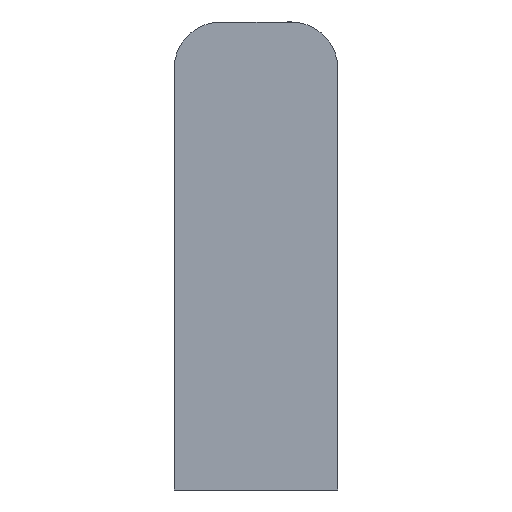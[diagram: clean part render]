
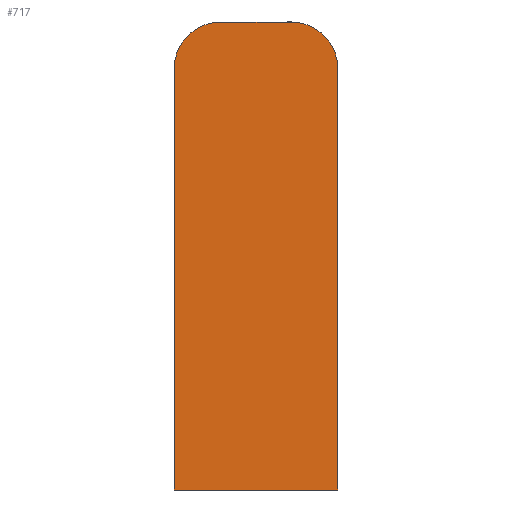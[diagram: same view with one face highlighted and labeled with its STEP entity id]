
A CAD part, front view. The second image highlights one B-rep face of the part: STEP entity #717.
In plain terms, the highlighted planar face has unit normal (0, -1, 0).
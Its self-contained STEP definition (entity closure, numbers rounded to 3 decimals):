
#40 = FACE_OUTER_BOUND ( 'NONE', #577, .T. ) ;
#59 = VECTOR ( 'NONE', #402, 1000. ) ;
#60 = LINE ( 'NONE', #401, #59 ) ;
#61 = VECTOR ( 'NONE', #399, 1000. ) ;
#62 = LINE ( 'NONE', #398, #61 ) ;
#86 = CIRCLE ( 'NONE', #672, 3. ) ;
#116 = CIRCLE ( 'NONE', #695, 3. ) ;
#158 = LINE ( 'NONE', #286, #161 ) ;
#161 = VECTOR ( 'NONE', #292, 1000. ) ;
#169 = LINE ( 'NONE', #344, #174 ) ;
#174 = VECTOR ( 'NONE', #345, 1000. ) ;
#201 = VERTEX_POINT ( 'NONE', #232 ) ;
#203 = VERTEX_POINT ( 'NONE', #242 ) ;
#207 = VERTEX_POINT ( 'NONE', #258 ) ;
#211 = VERTEX_POINT ( 'NONE', #262 ) ;
#223 = VERTEX_POINT ( 'NONE', #274 ) ;
#227 = VERTEX_POINT ( 'NONE', #278 ) ;
#232 = CARTESIAN_POINT ( 'NONE',  ( -5.25, 0., -16.5 ) ) ;
#242 = CARTESIAN_POINT ( 'NONE',  ( -2.25, 0., 13.5 ) ) ;
#258 = CARTESIAN_POINT ( 'NONE',  ( -5.25, 0., 10.5 ) ) ;
#262 = CARTESIAN_POINT ( 'NONE',  ( 5.25, 0., 10.5 ) ) ;
#274 = CARTESIAN_POINT ( 'NONE',  ( 5.25, 0., -16.5 ) ) ;
#278 = CARTESIAN_POINT ( 'NONE',  ( 2.25, 0., 13.5 ) ) ;
#286 = CARTESIAN_POINT ( 'NONE',  ( -5.25, 0., -16.5 ) ) ;
#292 = DIRECTION ( 'NONE',  ( 0., 0., -1. ) ) ;
#303 = CARTESIAN_POINT ( 'NONE',  ( -2.25, 0., 10.5 ) ) ;
#305 = DIRECTION ( 'NONE',  ( 0., -1., 0. ) ) ;
#306 = DIRECTION ( 'NONE',  ( -1., 0., 0. ) ) ;
#332 = CARTESIAN_POINT ( 'NONE',  ( 2.25, 0., 10.5 ) ) ;
#333 = DIRECTION ( 'NONE',  ( 0., -1., 0. ) ) ;
#334 = DIRECTION ( 'NONE',  ( -1., 0., 0. ) ) ;
#344 = CARTESIAN_POINT ( 'NONE',  ( 5.25, 0., -16.5 ) ) ;
#345 = DIRECTION ( 'NONE',  ( 0., 0., 1. ) ) ;
#398 = CARTESIAN_POINT ( 'NONE',  ( 2.25, 0., 13.5 ) ) ;
#399 = DIRECTION ( 'NONE',  ( -1., 0., 0. ) ) ;
#401 = CARTESIAN_POINT ( 'NONE',  ( 5.25, 0., -16.5 ) ) ;
#402 = DIRECTION ( 'NONE',  ( 1., 0., 0. ) ) ;
#432 = PLANE ( 'NONE',  #702 ) ;
#435 = CARTESIAN_POINT ( 'NONE',  ( 0., 0., -1.5 ) ) ;
#444 = DIRECTION ( 'NONE',  ( 0., 1., 0. ) ) ;
#445 = DIRECTION ( 'NONE',  ( -1., 0., 0. ) ) ;
#505 = ORIENTED_EDGE ( 'NONE', *, *, #693, .T. ) ;
#516 = ORIENTED_EDGE ( 'NONE', *, *, #657, .T. ) ;
#517 = ORIENTED_EDGE ( 'NONE', *, *, #640, .T. ) ;
#526 = ORIENTED_EDGE ( 'NONE', *, *, #692, .T. ) ;
#527 = ORIENTED_EDGE ( 'NONE', *, *, #617, .T. ) ;
#528 = ORIENTED_EDGE ( 'NONE', *, *, #610, .T. ) ;
#577 = EDGE_LOOP ( 'NONE', ( #516, #517, #526, #527, #528, #505 ) ) ;
#610 = EDGE_CURVE ( 'NONE', #207, #201, #158, .T. ) ;
#617 = EDGE_CURVE ( 'NONE', #203, #207, #86, .T. ) ;
#640 = EDGE_CURVE ( 'NONE', #211, #227, #116, .T. ) ;
#657 = EDGE_CURVE ( 'NONE', #223, #211, #169, .T. ) ;
#672 = AXIS2_PLACEMENT_3D ( 'NONE', #303, #305, #306 ) ;
#692 = EDGE_CURVE ( 'NONE', #227, #203, #62, .T. ) ;
#693 = EDGE_CURVE ( 'NONE', #201, #223, #60, .T. ) ;
#695 = AXIS2_PLACEMENT_3D ( 'NONE', #332, #333, #334 ) ;
#702 = AXIS2_PLACEMENT_3D ( 'NONE', #435, #444, #445 ) ;
#717 = ADVANCED_FACE ( 'NONE', ( #40 ), #432, .F. ) ;
